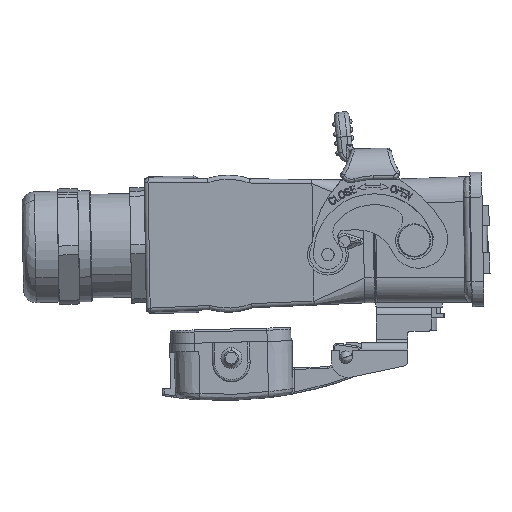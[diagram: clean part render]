
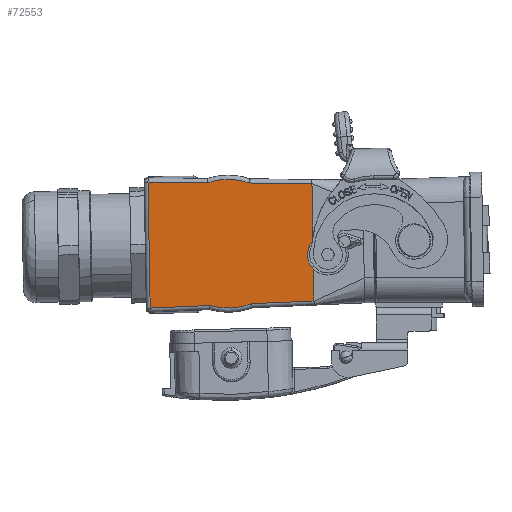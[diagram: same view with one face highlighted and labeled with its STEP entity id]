
A CAD part, left-side view. The second image highlights one B-rep face of the part: STEP entity #72553.
In plain terms, the highlighted planar face has unit normal (-0.998, 0.07, -0.001) as drawn and (-0.998, 0, 0.07) by its records, which use the part's own axes.
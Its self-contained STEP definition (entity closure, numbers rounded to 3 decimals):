
#5234 = CARTESIAN_POINT ( 'NONE',  ( 2.081, 26.982, 88.43 ) ) ;
#15554 = B_SPLINE_CURVE_WITH_KNOTS ( 'NONE', 3,
 ( #108481, #121293, #131257, #35174, #121980, #130566, #78560, #24498, #119862, #97101 ),
 .UNSPECIFIED., .F., .F.,
 ( 4, 2, 2, 2, 4 ),
 ( 0., 0.25, 0.5, 0.75, 1. ),
 .UNSPECIFIED. ) ;
#16498 = CARTESIAN_POINT ( 'NONE',  ( 2.449, 28.389, 93.696 ) ) ;
#17184 = CARTESIAN_POINT ( 'NONE',  ( 2.099, 28.509, 88.666 ) ) ;
#18194 = B_SPLINE_CURVE_WITH_KNOTS ( 'NONE', 3,
 ( #96582, #63899, #140034, #42517 ),
 .UNSPECIFIED., .F., .F.,
 ( 4, 4 ),
 ( 0., 1. ),
 .UNSPECIFIED. ) ;
#18534 = DIRECTION ( 'NONE',  ( -0.07, -0.026, -0.997 ) ) ;
#18740 = PLANE ( 'NONE',  #137471 ) ;
#20913 = CARTESIAN_POINT ( 'NONE',  ( 3.62, 58.149, 110.436 ) ) ;
#21655 = ORIENTED_EDGE ( 'NONE', *, *, #33734, .T. ) ;
#22557 = VERTEX_POINT ( 'NONE', #28118 ) ;
#23180 = VERTEX_POINT ( 'NONE', #36350 ) ;
#24498 = CARTESIAN_POINT ( 'NONE',  ( 3.738, 27.446, 112.127 ) ) ;
#27115 = EDGE_LOOP ( 'NONE', ( #21655, #31107, #52128, #28614, #47091, #105324, #48152, #131757, #96768 ) ) ;
#27701 = CARTESIAN_POINT ( 'NONE',  ( 4.858, 27.509, 128.145 ) ) ;
#27992 = CARTESIAN_POINT ( 'NONE',  ( 2.098, 31.68, 88.672 ) ) ;
#28118 = CARTESIAN_POINT ( 'NONE',  ( 3.853, 57.475, 113.767 ) ) ;
#28218 = LINE ( 'NONE', #106444, #103346 ) ;
#28566 = VERTEX_POINT ( 'NONE', #27701 ) ;
#28614 = ORIENTED_EDGE ( 'NONE', *, *, #87795, .T. ) ;
#30517 = VERTEX_POINT ( 'NONE', #51204 ) ;
#31107 = ORIENTED_EDGE ( 'NONE', *, *, #130556, .T. ) ;
#31985 = LINE ( 'NONE', #96036, #108771 ) ;
#33734 = EDGE_CURVE ( 'NONE', #134783, #22557, #31985, .T. ) ;
#35174 = CARTESIAN_POINT ( 'NONE',  ( 3.383, 27.3, 107.045 ) ) ;
#35561 = CARTESIAN_POINT ( 'NONE',  ( 3.152, 57.212, 103.754 ) ) ;
#36350 = CARTESIAN_POINT ( 'NONE',  ( 2.099, 28.509, 88.666 ) ) ;
#38019 = CARTESIAN_POINT ( 'NONE',  ( 4.858, 42.68, 128.145 ) ) ;
#38187 = DIRECTION ( 'NONE',  ( 0.07, -0.026, 0.997 ) ) ;
#40864 = CARTESIAN_POINT ( 'NONE',  ( 3.383, 58.06, 107.045 ) ) ;
#41796 = B_SPLINE_CURVE_WITH_KNOTS ( 'NONE', 3,
 ( #35561, #46265, #103142, #101036 ),
 .UNSPECIFIED., .F., .F.,
 ( 4, 4 ),
 ( 0., 1. ),
 .UNSPECIFIED. ) ;
#42517 = CARTESIAN_POINT ( 'NONE',  ( 2.098, 42.68, 88.675 ) ) ;
#46265 = CARTESIAN_POINT ( 'NONE',  ( 2.801, 57.092, 98.725 ) ) ;
#47091 = ORIENTED_EDGE ( 'NONE', *, *, #72539, .T. ) ;
#48152 = ORIENTED_EDGE ( 'NONE', *, *, #135147, .T. ) ;
#49344 = DIRECTION ( 'NONE',  ( -0.998, 0., 0.07 ) ) ;
#51204 = CARTESIAN_POINT ( 'NONE',  ( 2.098, 42.68, 88.675 ) ) ;
#52128 = ORIENTED_EDGE ( 'NONE', *, *, #106732, .T. ) ;
#52177 = B_SPLINE_CURVE_WITH_KNOTS ( 'NONE', 3,
 ( #93430, #116198, #27992, #71406 ),
 .UNSPECIFIED., .F., .F.,
 ( 4, 4 ),
 ( 0., 1. ),
 .UNSPECIFIED. ) ;
#52241 = CARTESIAN_POINT ( 'NONE',  ( 3.853, 57.475, 113.767 ) ) ;
#59186 = CARTESIAN_POINT ( 'NONE',  ( 2.801, 28.268, 98.725 ) ) ;
#60086 = LINE ( 'NONE', #38019, #102112 ) ;
#63899 = CARTESIAN_POINT ( 'NONE',  ( 2.098, 53.679, 88.672 ) ) ;
#65611 = B_SPLINE_CURVE_WITH_KNOTS ( 'NONE', 3,
 ( #52241, #84964, #136974, #20913, #129072, #128385, #40864, #72883, #116290, #84264 ),
 .UNSPECIFIED., .F., .F.,
 ( 4, 2, 2, 2, 4 ),
 ( 0., 0.25, 0.5, 0.75, 1. ),
 .UNSPECIFIED. ) ;
#71406 = CARTESIAN_POINT ( 'NONE',  ( 2.099, 28.509, 88.666 ) ) ;
#72539 = EDGE_CURVE ( 'NONE', #30517, #23180, #52177, .T. ) ;
#72553 = ADVANCED_FACE ( 'NONE', ( #72792 ), #18740, .T. ) ;
#72792 = FACE_OUTER_BOUND ( 'NONE', #27115, .T. ) ;
#72883 = CARTESIAN_POINT ( 'NONE',  ( 3.265, 57.737, 105.369 ) ) ;
#76632 = CARTESIAN_POINT ( 'NONE',  ( 4.858, 57.851, 128.145 ) ) ;
#78560 = CARTESIAN_POINT ( 'NONE',  ( 3.62, 27.211, 110.436 ) ) ;
#82049 = CARTESIAN_POINT ( 'NONE',  ( 3.152, 57.212, 103.754 ) ) ;
#84264 = CARTESIAN_POINT ( 'NONE',  ( 3.152, 57.212, 103.754 ) ) ;
#84675 = CARTESIAN_POINT ( 'NONE',  ( 3.853, 27.885, 113.767 ) ) ;
#84964 = CARTESIAN_POINT ( 'NONE',  ( 3.796, 57.728, 112.956 ) ) ;
#87795 = EDGE_CURVE ( 'NONE', #126741, #30517, #18194, .T. ) ;
#93430 = CARTESIAN_POINT ( 'NONE',  ( 2.098, 42.68, 88.675 ) ) ;
#96036 = CARTESIAN_POINT ( 'NONE',  ( 4.858, 57.851, 128.145 ) ) ;
#96582 = CARTESIAN_POINT ( 'NONE',  ( 2.099, 56.85, 88.666 ) ) ;
#96768 = ORIENTED_EDGE ( 'NONE', *, *, #129478, .T. ) ;
#97101 = CARTESIAN_POINT ( 'NONE',  ( 3.853, 27.885, 113.767 ) ) ;
#101036 = CARTESIAN_POINT ( 'NONE',  ( 2.099, 56.85, 88.666 ) ) ;
#101883 = VERTEX_POINT ( 'NONE', #84675 ) ;
#102112 = VECTOR ( 'NONE', #124840, 1000. ) ;
#103142 = CARTESIAN_POINT ( 'NONE',  ( 2.449, 56.971, 93.696 ) ) ;
#103346 = VECTOR ( 'NONE', #38187, 1000. ) ;
#105324 = ORIENTED_EDGE ( 'NONE', *, *, #139611, .T. ) ;
#106444 = CARTESIAN_POINT ( 'NONE',  ( 3.853, 27.885, 113.767 ) ) ;
#106732 = EDGE_CURVE ( 'NONE', #110722, #126741, #41796, .T. ) ;
#108481 = CARTESIAN_POINT ( 'NONE',  ( 3.152, 28.147, 103.754 ) ) ;
#108771 = VECTOR ( 'NONE', #18534, 1000. ) ;
#110722 = VERTEX_POINT ( 'NONE', #82049 ) ;
#112714 = VERTEX_POINT ( 'NONE', #140932 ) ;
#116198 = CARTESIAN_POINT ( 'NONE',  ( 2.098, 36.403, 88.675 ) ) ;
#116290 = CARTESIAN_POINT ( 'NONE',  ( 3.208, 57.508, 104.551 ) ) ;
#119862 = CARTESIAN_POINT ( 'NONE',  ( 3.796, 27.632, 112.955 ) ) ;
#121293 = CARTESIAN_POINT ( 'NONE',  ( 3.208, 27.852, 104.551 ) ) ;
#121980 = CARTESIAN_POINT ( 'NONE',  ( 3.442, 27.207, 107.89 ) ) ;
#123670 = CARTESIAN_POINT ( 'NONE',  ( 2.099, 56.85, 88.666 ) ) ;
#124578 = EDGE_CURVE ( 'NONE', #101883, #28566, #28218, .T. ) ;
#124840 = DIRECTION ( 'NONE',  ( 0., 1., 0. ) ) ;
#126181 = DIRECTION ( 'NONE',  ( 0., 1., 0. ) ) ;
#126741 = VERTEX_POINT ( 'NONE', #123670 ) ;
#128385 = CARTESIAN_POINT ( 'NONE',  ( 3.442, 58.152, 107.89 ) ) ;
#129072 = CARTESIAN_POINT ( 'NONE',  ( 3.56, 58.197, 109.588 ) ) ;
#129478 = EDGE_CURVE ( 'NONE', #28566, #134783, #60086, .T. ) ;
#130556 = EDGE_CURVE ( 'NONE', #22557, #110722, #65611, .T. ) ;
#130566 = CARTESIAN_POINT ( 'NONE',  ( 3.56, 27.163, 109.588 ) ) ;
#131257 = CARTESIAN_POINT ( 'NONE',  ( 3.265, 27.623, 105.369 ) ) ;
#131757 = ORIENTED_EDGE ( 'NONE', *, *, #124578, .T. ) ;
#132961 = B_SPLINE_CURVE_WITH_KNOTS ( 'NONE', 3,
 ( #17184, #16498, #59186, #136046 ),
 .UNSPECIFIED., .F., .F.,
 ( 4, 4 ),
 ( 0., 1. ),
 .UNSPECIFIED. ) ;
#134783 = VERTEX_POINT ( 'NONE', #76632 ) ;
#135147 = EDGE_CURVE ( 'NONE', #112714, #101883, #15554, .T. ) ;
#136046 = CARTESIAN_POINT ( 'NONE',  ( 3.152, 28.147, 103.754 ) ) ;
#136974 = CARTESIAN_POINT ( 'NONE',  ( 3.738, 57.914, 112.127 ) ) ;
#137471 = AXIS2_PLACEMENT_3D ( 'NONE', #5234, #49344, #126181 ) ;
#139611 = EDGE_CURVE ( 'NONE', #23180, #112714, #132961, .T. ) ;
#140034 = CARTESIAN_POINT ( 'NONE',  ( 2.098, 48.955, 88.675 ) ) ;
#140932 = CARTESIAN_POINT ( 'NONE',  ( 3.152, 28.147, 103.754 ) ) ;
